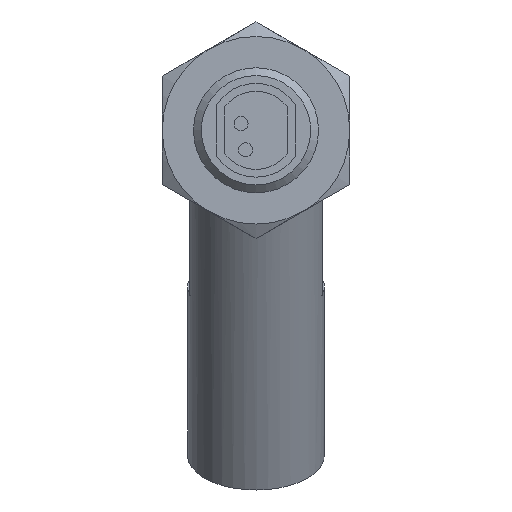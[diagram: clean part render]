
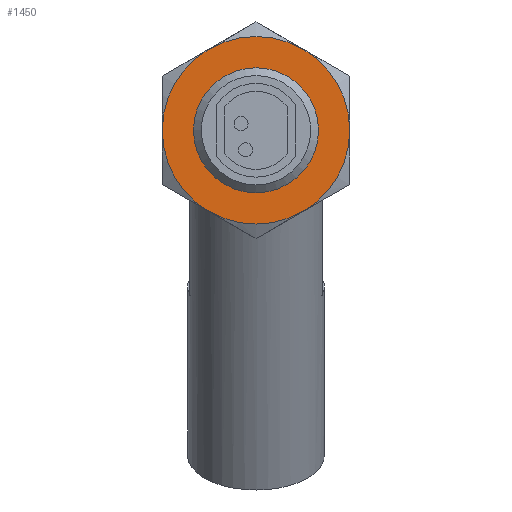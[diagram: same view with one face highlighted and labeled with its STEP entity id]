
A CAD part, front view. The second image highlights one B-rep face of the part: STEP entity #1450.
In plain terms, the highlighted planar face has unit normal (0, -1, 0) as drawn and (-1, 0, 0) by its records, which use the part's own axes.
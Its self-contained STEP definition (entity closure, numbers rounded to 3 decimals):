
#1333=CARTESIAN_POINT('',(0.0,0.,8.));
#1334=VERTEX_POINT('',#1333);
#1335=CARTESIAN_POINT('',(0.0,0.0,0.0));
#1336=DIRECTION('',(-1.0,0.0,0.0));
#1337=DIRECTION('',(0.0,0.0,-1.0));
#1338=AXIS2_PLACEMENT_3D('',#1335,#1336,#1337);
#1339=CIRCLE('',#1338,8.);
#1340=EDGE_CURVE('',#1334,#1334,#1339,.T.);
#1386=CARTESIAN_POINT('',(0.0,0.,0.));
#1387=DIRECTION('',(1.0,0.0,0.0));
#1388=DIRECTION('',(0.0,0.0,-1.0));
#1389=AXIS2_PLACEMENT_3D('',#1386,#1387,#1388);
#1390=PLANE('',#1389);
#1391=CARTESIAN_POINT('',(0.0,-10.392,-6.));
#1392=VERTEX_POINT('',#1391);
#1393=CARTESIAN_POINT('',(0.0,-10.392,6.));
#1394=VERTEX_POINT('',#1393);
#1395=CARTESIAN_POINT('',(0.0,0.0,0.0));
#1396=DIRECTION('',(-1.0,0.0,0.0));
#1397=DIRECTION('',(0.0,1.0,0.0));
#1398=AXIS2_PLACEMENT_3D('',#1395,#1396,#1397);
#1399=CIRCLE('',#1398,12.);
#1400=EDGE_CURVE('',#1392,#1394,#1399,.T.);
#1401=ORIENTED_EDGE('',*,*,#1400,.T.);
#1402=CARTESIAN_POINT('',(0.0,0.0,12.));
#1403=VERTEX_POINT('',#1402);
#1404=CARTESIAN_POINT('',(0.0,0.0,0.0));
#1405=DIRECTION('',(-1.0,0.0,0.0));
#1406=DIRECTION('',(0.0,1.0,0.0));
#1407=AXIS2_PLACEMENT_3D('',#1404,#1405,#1406);
#1408=CIRCLE('',#1407,12.);
#1409=EDGE_CURVE('',#1394,#1403,#1408,.T.);
#1410=ORIENTED_EDGE('',*,*,#1409,.T.);
#1411=CARTESIAN_POINT('',(0.0,10.392,6.));
#1412=VERTEX_POINT('',#1411);
#1413=CARTESIAN_POINT('',(0.0,0.0,0.0));
#1414=DIRECTION('',(-1.0,0.0,0.0));
#1415=DIRECTION('',(0.0,1.0,0.0));
#1416=AXIS2_PLACEMENT_3D('',#1413,#1414,#1415);
#1417=CIRCLE('',#1416,12.);
#1418=EDGE_CURVE('',#1403,#1412,#1417,.T.);
#1419=ORIENTED_EDGE('',*,*,#1418,.T.);
#1420=CARTESIAN_POINT('',(0.0,10.392,-6.));
#1421=VERTEX_POINT('',#1420);
#1422=CARTESIAN_POINT('',(0.0,0.0,0.0));
#1423=DIRECTION('',(-1.0,0.0,0.0));
#1424=DIRECTION('',(0.0,1.0,0.0));
#1425=AXIS2_PLACEMENT_3D('',#1422,#1423,#1424);
#1426=CIRCLE('',#1425,12.);
#1427=EDGE_CURVE('',#1412,#1421,#1426,.T.);
#1428=ORIENTED_EDGE('',*,*,#1427,.T.);
#1429=CARTESIAN_POINT('',(0.0,0.,-12.));
#1430=VERTEX_POINT('',#1429);
#1431=CARTESIAN_POINT('',(0.0,0.0,0.0));
#1432=DIRECTION('',(-1.0,0.0,0.0));
#1433=DIRECTION('',(0.0,1.0,0.0));
#1434=AXIS2_PLACEMENT_3D('',#1431,#1432,#1433);
#1435=CIRCLE('',#1434,12.);
#1436=EDGE_CURVE('',#1421,#1430,#1435,.T.);
#1437=ORIENTED_EDGE('',*,*,#1436,.T.);
#1438=CARTESIAN_POINT('',(0.0,0.0,0.0));
#1439=DIRECTION('',(-1.0,0.0,0.0));
#1440=DIRECTION('',(0.0,1.0,0.0));
#1441=AXIS2_PLACEMENT_3D('',#1438,#1439,#1440);
#1442=CIRCLE('',#1441,12.);
#1443=EDGE_CURVE('',#1430,#1392,#1442,.T.);
#1444=ORIENTED_EDGE('',*,*,#1443,.T.);
#1445=EDGE_LOOP('',(#1401,#1410,#1419,#1428,#1437,#1444));
#1446=FACE_OUTER_BOUND('',#1445,.T.);
#1447=ORIENTED_EDGE('',*,*,#1340,.F.);
#1448=EDGE_LOOP('',(#1447));
#1449=FACE_BOUND('',#1448,.T.);
#1450=ADVANCED_FACE('',(#1446,#1449),#1390,.F.);
